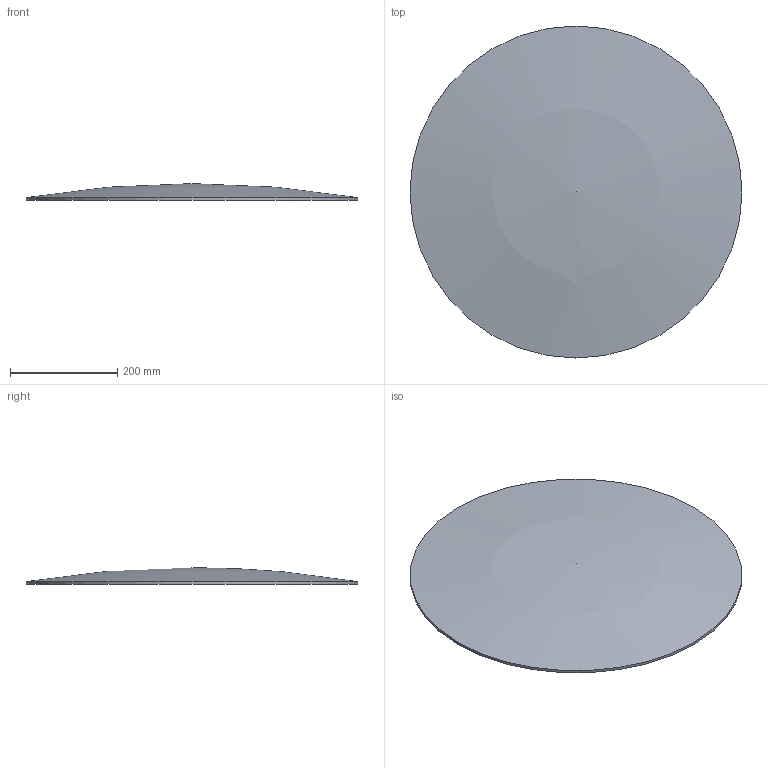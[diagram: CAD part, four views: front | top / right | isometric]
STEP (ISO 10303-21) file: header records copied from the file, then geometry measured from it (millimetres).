
FILE_DESCRIPTION( ( 'STEP AP214' ), '1' );
FILE_NAME( 'D:/Yug/2021/Delta/desk_and_office_organisation/QC/48676.stp', '2021-01-19T12:32:07', ( '' ), ( '' ), ' ', 'PARTsolutions', ' ' );
FILE_SCHEMA( ( 'AUTOMOTIVE_DESIGN { 1 0 10303 214 1 1 1 1 }' ) );
Length unit declared in the file: millimetre
Products named in the file (1): _48676
Bounding box: 620 x 620 x 31.14 mm (x, y, z)
Volume: 1520242.1 mm3; surface area: 617974.9 mm2
Topology: 1 solids, 1 shells, 3 faces, 9 edges, 6 vertices
Faces by surface type: sphere 2, cylinder 1
Full cylindrical faces by diameter (mm): 620 x1
Entity records: 102 total; most frequent: DIRECTION 12, CARTESIAN_POINT 10, AXIS2_PLACEMENT_3D 6, FACE_OUTER_BOUND 4, EDGE_LOOP 4, VERTEX_POINT 4, ORIENTED_EDGE 4, STYLED_ITEM 3
